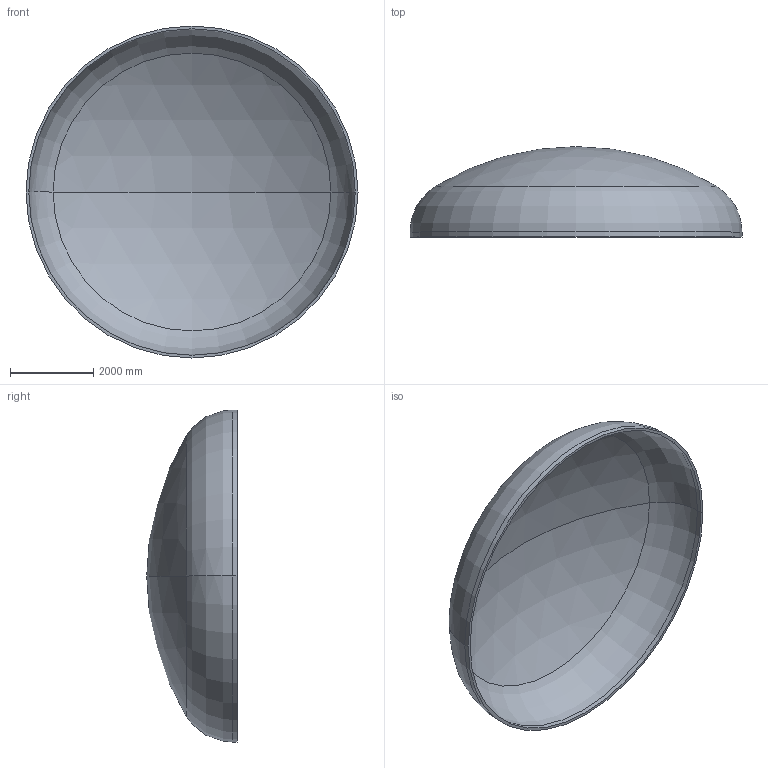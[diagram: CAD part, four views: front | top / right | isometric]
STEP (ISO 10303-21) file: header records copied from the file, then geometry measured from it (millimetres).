
FILE_DESCRIPTION (( 'STEP AP203' ), '1' );
FILE_NAME ('DIN 28013 Korbbogenform_-_Boden DIN 28013 - 8000 x 120 - I - s=66.step', '2016-07-04T11:03:14', ( '' ), ( '' ), 'SwSTEP 2.0', 'SolidWorks 2013', '' );
FILE_SCHEMA (( 'CONFIG_CONTROL_DESIGN' ));
Length unit declared in the file: millimetre
Products named in the file (1): DIN 28013 Korbbogenform_-_Boden DIN 28013 - 8000 x 120 - I - s=66
Bounding box: 8000 x 2179.5 x 8000 mm (x, y, z)
Volume: 4740853793.5 mm3; surface area: 145316379.4 mm2
Topology: 1 solids, 1 shells, 13 faces, 24 edges, 14 vertices
Faces by surface type: torus 4, cylinder 4, sphere 4, plane 1
Entity records: 407 total; most frequent: DIRECTION 72, CARTESIAN_POINT 52, ORIENTED_EDGE 48, AXIS2_PLACEMENT_3D 34, EDGE_CURVE 24, CIRCLE 20, EDGE_LOOP 14, VERTEX_POINT 14
